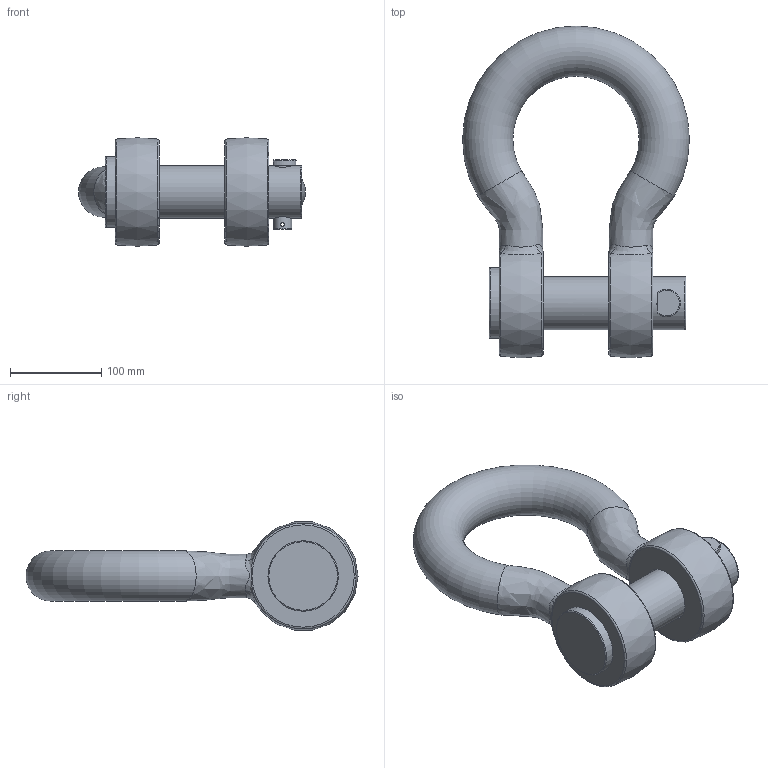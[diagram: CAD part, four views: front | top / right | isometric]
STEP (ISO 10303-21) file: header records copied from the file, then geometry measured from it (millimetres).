
FILE_DESCRIPTION(/* description */ (''),/* implementation_level */ '2;1');
FILE_NAME(/* name */ 'C:\Users\D\Documents\Inventor\HP\吊具\シャックル\BA_2\ba_48.stp',/* time_stamp */ '2024-11-20T10:45:08+09:00',/* author */ ('D'),/* organization */ (''),/* preprocessor_version */ 'ST-DEVELOPER v18',/* originating_system */ 'Autodesk Inventor 2020',/* authorisation */ '');
FILE_SCHEMA (('AUTOMOTIVE_DESIGN { 1 0 10303 214 3 1 1 }'));
Length unit declared in the file: millimetre
Products named in the file (4): ba_48; ba_6; ba-sa_pin1_34; ba-sa_pin2_34
Assembly tree (3 placements, depth 2):
  ba_48
    ba_6
    ba-sa_pin1_34
    ba-sa_pin2_34
Bounding box: 248 x 363 x 118.45 mm (x, y, z)
Volume: 2663599.3 mm3; surface area: 243141 mm2
Topology: 5 solids, 5 shells, 44 faces, 119 edges, 84 vertices
Faces by surface type: plane 15, bspline 12, torus 9, cylinder 8
Full cylindrical faces by diameter (mm): 4 x1, 20 x1, 21 x1, 58 x1, 60 x2, 77 x1
Entity records: 3104 total; most frequent: CARTESIAN_POINT 1874, ORIENTED_EDGE 236, DIRECTION 227, EDGE_CURVE 118, AXIS2_PLACEMENT_3D 107, VERTEX_POINT 84, CIRCLE 68, EDGE_LOOP 52
